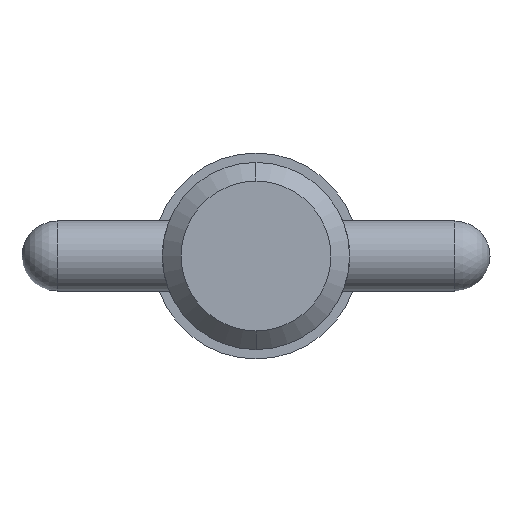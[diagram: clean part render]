
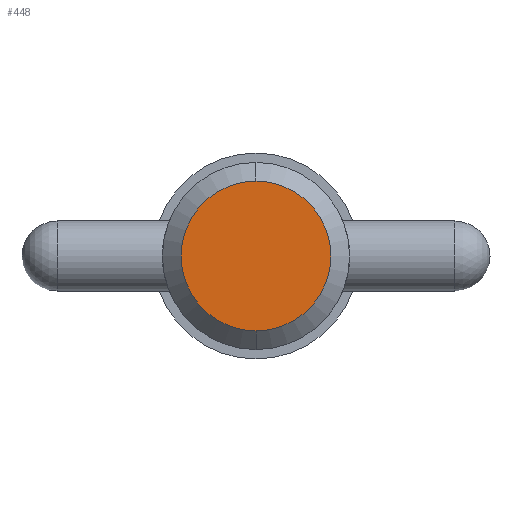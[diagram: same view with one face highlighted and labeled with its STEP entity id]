
A CAD part, left-side view. The second image highlights one B-rep face of the part: STEP entity #448.
In plain terms, the highlighted planar face has unit normal (-1, 0, 0).
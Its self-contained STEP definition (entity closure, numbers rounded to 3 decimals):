
#25 = VERTEX_POINT ( 'NONE', #221 ) ;
#58 = DIRECTION ( 'NONE',  ( 1., 0., 0. ) ) ;
#221 = CARTESIAN_POINT ( 'NONE',  ( 0., 0., -5.08 ) ) ;
#269 = EDGE_LOOP ( 'NONE', ( #664, #577 ) ) ;
#300 = DIRECTION ( 'NONE',  ( 0., 0., 1. ) ) ;
#448 = ADVANCED_FACE ( 'NONE', ( #783 ), #949, .T. ) ;
#469 = DIRECTION ( 'NONE',  ( 0., 0., -1. ) ) ;
#515 = AXIS2_PLACEMENT_3D ( 'NONE', #788, #58, #469 ) ;
#526 = DIRECTION ( 'NONE',  ( -1., 0., 0. ) ) ;
#547 = CIRCLE ( 'NONE', #1047, 5.08 ) ;
#560 = EDGE_CURVE ( 'NONE', #931, #25, #978, .T. ) ;
#577 = ORIENTED_EDGE ( 'NONE', *, *, #560, .F. ) ;
#642 = CARTESIAN_POINT ( 'NONE',  ( 0., 0., 0. ) ) ;
#664 = ORIENTED_EDGE ( 'NONE', *, *, #984, .F. ) ;
#699 = AXIS2_PLACEMENT_3D ( 'NONE', #866, #526, #300 ) ;
#783 = FACE_OUTER_BOUND ( 'NONE', #269, .T. ) ;
#788 = CARTESIAN_POINT ( 'NONE',  ( 0., 0., 0. ) ) ;
#866 = CARTESIAN_POINT ( 'NONE',  ( 0., 0., 0. ) ) ;
#931 = VERTEX_POINT ( 'NONE', #975 ) ;
#949 = PLANE ( 'NONE',  #699 ) ;
#966 = DIRECTION ( 'NONE',  ( 1., 0., 0. ) ) ;
#970 = DIRECTION ( 'NONE',  ( 0., 0., -1. ) ) ;
#975 = CARTESIAN_POINT ( 'NONE',  ( 0., 0., 5.08 ) ) ;
#978 = CIRCLE ( 'NONE', #515, 5.08 ) ;
#984 = EDGE_CURVE ( 'NONE', #25, #931, #547, .T. ) ;
#1047 = AXIS2_PLACEMENT_3D ( 'NONE', #642, #966, #970 ) ;
